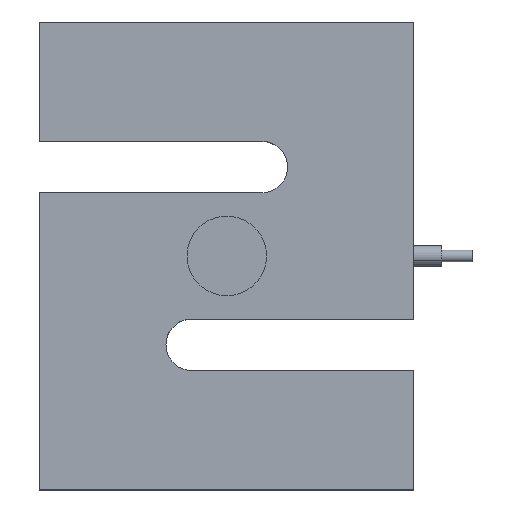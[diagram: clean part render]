
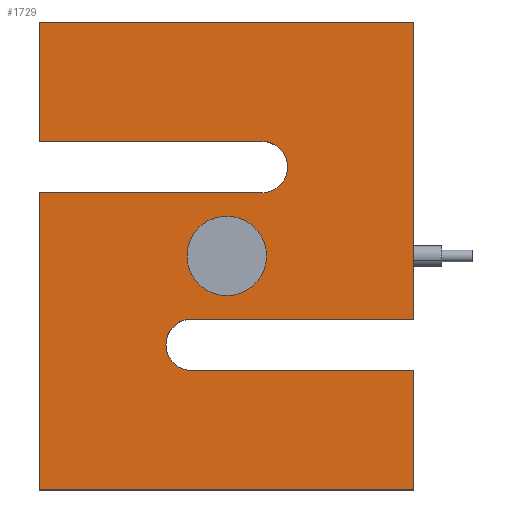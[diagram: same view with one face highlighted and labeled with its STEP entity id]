
A CAD part, top view. The second image highlights one B-rep face of the part: STEP entity #1729.
In plain terms, the highlighted planar face has unit normal (0, 0, 1).
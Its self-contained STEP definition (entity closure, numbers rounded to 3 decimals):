
#12 = DIRECTION ( 'NONE',  ( 0., 1., 0. ) ) ;
#14 = CARTESIAN_POINT ( 'NONE',  ( 121.131, 19.637, 116.765 ) ) ;
#15 = LINE ( 'NONE', #14, #910 ) ;
#18 = DIRECTION ( 'NONE',  ( -1., 0., 0. ) ) ;
#20 = DIRECTION ( 'NONE',  ( 0., 0., -1. ) ) ;
#21 = CARTESIAN_POINT ( 'NONE',  ( 26.131, 8.637, 116.765 ) ) ;
#33 = DIRECTION ( 'NONE',  ( -1., 0., 0. ) ) ;
#34 = CARTESIAN_POINT ( 'NONE',  ( 121.131, -2.363, 116.765 ) ) ;
#35 = LINE ( 'NONE', #34, #916 ) ;
#49 = DIRECTION ( 'NONE',  ( 0., 1., 0. ) ) ;
#53 = CARTESIAN_POINT ( 'NONE',  ( 121.131, -53.363, 116.765 ) ) ;
#63 = LINE ( 'NONE', #53, #924 ) ;
#83 = ORIENTED_EDGE ( 'NONE', *, *, #1813, .T. ) ;
#84 = ORIENTED_EDGE ( 'NONE', *, *, #1817, .T. ) ;
#85 = ORIENTED_EDGE ( 'NONE', *, *, #1800, .T. ) ;
#99 = ORIENTED_EDGE ( 'NONE', *, *, #1801, .T. ) ;
#100 = ORIENTED_EDGE ( 'NONE', *, *, #1785, .T. ) ;
#101 = ORIENTED_EDGE ( 'NONE', *, *, #1793, .T. ) ;
#114 = ORIENTED_EDGE ( 'NONE', *, *, #1791, .T. ) ;
#115 = ORIENTED_EDGE ( 'NONE', *, *, #648, .T. ) ;
#116 = ORIENTED_EDGE ( 'NONE', *, *, #652, .T. ) ;
#128 = ORIENTED_EDGE ( 'NONE', *, *, #654, .T. ) ;
#129 = ORIENTED_EDGE ( 'NONE', *, *, #1804, .T. ) ;
#130 = ORIENTED_EDGE ( 'NONE', *, *, #665, .T. ) ;
#150 = EDGE_LOOP ( 'NONE', ( #257, #256 ) ) ;
#152 = ORIENTED_EDGE ( 'NONE', *, *, #656, .T. ) ;
#160 = EDGE_LOOP ( 'NONE', ( #83, #84, #85, #99, #100, #101, #114, #115, #116, #128, #129, #130, #152 ) ) ;
#256 = ORIENTED_EDGE ( 'NONE', *, *, #1811, .T. ) ;
#257 = ORIENTED_EDGE ( 'NONE', *, *, #659, .T. ) ;
#455 = CARTESIAN_POINT ( 'NONE',  ( 56.131, 73.637, 116.765 ) ) ;
#462 = LINE ( 'NONE', #455, #1507 ) ;
#466 = DIRECTION ( 'NONE',  ( -1., 0., 0. ) ) ;
#467 = LINE ( 'NONE', #482, #1470 ) ;
#479 = CARTESIAN_POINT ( 'NONE',  ( -38.869, 73.637, 116.765 ) ) ;
#482 = CARTESIAN_POINT ( 'NONE',  ( -38.869, -53.363, 116.765 ) ) ;
#483 = DIRECTION ( 'NONE',  ( 1., 0., 0. ) ) ;
#486 = LINE ( 'NONE', #479, #1468 ) ;
#490 = DIRECTION ( 'NONE',  ( 0., -1., 0. ) ) ;
#509 = LINE ( 'NONE', #510, #1421 ) ;
#510 = CARTESIAN_POINT ( 'NONE',  ( -38.869, 95.637, 116.765 ) ) ;
#511 = DIRECTION ( 'NONE',  ( 1., 0., 0. ) ) ;
#514 = CARTESIAN_POINT ( 'NONE',  ( 56.131, 84.637, 116.765 ) ) ;
#515 = DIRECTION ( 'NONE',  ( 0., 0., -1. ) ) ;
#516 = DIRECTION ( 'NONE',  ( -1., 0., 0. ) ) ;
#521 = CARTESIAN_POINT ( 'NONE',  ( 26.131, 8.637, 116.765 ) ) ;
#522 = DIRECTION ( 'NONE',  ( 0., 0., -1. ) ) ;
#523 = DIRECTION ( 'NONE',  ( -1., 0., 0. ) ) ;
#543 = LINE ( 'NONE', #549, #1466 ) ;
#544 = CARTESIAN_POINT ( 'NONE',  ( 41.131, 46.637, 116.765 ) ) ;
#545 = DIRECTION ( 'NONE',  ( 0., 0., -1. ) ) ;
#546 = DIRECTION ( 'NONE',  ( -1., 0., 0. ) ) ;
#549 = CARTESIAN_POINT ( 'NONE',  ( 121.131, 146.637, 116.765 ) ) ;
#550 = DIRECTION ( 'NONE',  ( -1., 0., 0. ) ) ;
#558 = LINE ( 'NONE', #559, #1467 ) ;
#559 = CARTESIAN_POINT ( 'NONE',  ( -38.869, 146.637, 116.765 ) ) ;
#560 = DIRECTION ( 'NONE',  ( 0., -1., 0. ) ) ;
#648 = EDGE_CURVE ( 'NONE', #1365, #1378, #63, .T. ) ;
#652 = EDGE_CURVE ( 'NONE', #1378, #1374, #35, .T. ) ;
#654 = EDGE_CURVE ( 'NONE', #1374, #1357, #917, .T. ) ;
#656 = EDGE_CURVE ( 'NONE', #1344, #1372, #15, .T. ) ;
#659 = EDGE_CURVE ( 'NONE', #1335, #1381, #908, .T. ) ;
#665 = EDGE_CURVE ( 'NONE', #1343, #1344, #823, .T. ) ;
#690 = DIRECTION ( 'NONE',  ( 0., 0., -1. ) ) ;
#693 = DIRECTION ( 'NONE',  ( -1., 0., 0. ) ) ;
#699 = CARTESIAN_POINT ( 'NONE',  ( 41.131, 46.637, 116.765 ) ) ;
#707 = CARTESIAN_POINT ( 'NONE',  ( -38.869, 146.637, 116.765 ) ) ;
#713 = CARTESIAN_POINT ( 'NONE',  ( 58.131, 46.637, 116.765 ) ) ;
#716 = CARTESIAN_POINT ( 'NONE',  ( 121.131, -2.363, 116.765 ) ) ;
#719 = CARTESIAN_POINT ( 'NONE',  ( 56.131, 73.637, 116.765 ) ) ;
#720 = CARTESIAN_POINT ( 'NONE',  ( 26.131, -2.363, 116.765 ) ) ;
#722 = CARTESIAN_POINT ( 'NONE',  ( 121.131, 146.637, 116.765 ) ) ;
#729 = CARTESIAN_POINT ( 'NONE',  ( 121.131, -53.363, 116.765 ) ) ;
#732 = CARTESIAN_POINT ( 'NONE',  ( 56.131, 95.637, 116.765 ) ) ;
#734 = CARTESIAN_POINT ( 'NONE',  ( -38.869, -53.363, 116.765 ) ) ;
#737 = CARTESIAN_POINT ( 'NONE',  ( 15.131, 8.637, 116.765 ) ) ;
#738 = CARTESIAN_POINT ( 'NONE',  ( -38.869, 73.637, 116.765 ) ) ;
#739 = CARTESIAN_POINT ( 'NONE',  ( -38.869, 95.637, 116.765 ) ) ;
#750 = CARTESIAN_POINT ( 'NONE',  ( 121.131, 19.637, 116.765 ) ) ;
#751 = CARTESIAN_POINT ( 'NONE',  ( 26.131, 19.637, 116.765 ) ) ;
#759 = CARTESIAN_POINT ( 'NONE',  ( 24.131, 46.637, 116.765 ) ) ;
#813 = DIRECTION ( 'NONE',  ( 1., 0., 0. ) ) ;
#814 = CARTESIAN_POINT ( 'NONE',  ( 26.131, 19.637, 116.765 ) ) ;
#823 = LINE ( 'NONE', #814, #901 ) ;
#901 = VECTOR ( 'NONE', #813, 1000. ) ;
#904 = AXIS2_PLACEMENT_3D ( 'NONE', #699, #690, #693 ) ;
#908 = CIRCLE ( 'NONE', #904, 17. ) ;
#910 = VECTOR ( 'NONE', #12, 1000. ) ;
#911 = AXIS2_PLACEMENT_3D ( 'NONE', #21, #20, #18 ) ;
#916 = VECTOR ( 'NONE', #33, 1000. ) ;
#917 = CIRCLE ( 'NONE', #911, 11. ) ;
#924 = VECTOR ( 'NONE', #49, 1000. ) ;
#962 = DIRECTION ( 'NONE',  ( -1., 0., 0. ) ) ;
#963 = DIRECTION ( 'NONE',  ( 0., 0., -1. ) ) ;
#964 = CARTESIAN_POINT ( 'NONE',  ( 56.131, 84.637, 116.765 ) ) ;
#977 = FACE_BOUND ( 'NONE', #150, .T. ) ;
#983 = PLANE ( 'NONE',  #1250 ) ;
#995 = FACE_OUTER_BOUND ( 'NONE', #160, .T. ) ;
#1250 = AXIS2_PLACEMENT_3D ( 'NONE', #964, #963, #962 ) ;
#1335 = VERTEX_POINT ( 'NONE', #759 ) ;
#1343 = VERTEX_POINT ( 'NONE', #751 ) ;
#1344 = VERTEX_POINT ( 'NONE', #750 ) ;
#1355 = VERTEX_POINT ( 'NONE', #739 ) ;
#1356 = VERTEX_POINT ( 'NONE', #738 ) ;
#1357 = VERTEX_POINT ( 'NONE', #737 ) ;
#1360 = VERTEX_POINT ( 'NONE', #734 ) ;
#1362 = VERTEX_POINT ( 'NONE', #732 ) ;
#1365 = VERTEX_POINT ( 'NONE', #729 ) ;
#1372 = VERTEX_POINT ( 'NONE', #722 ) ;
#1374 = VERTEX_POINT ( 'NONE', #720 ) ;
#1375 = VERTEX_POINT ( 'NONE', #719 ) ;
#1378 = VERTEX_POINT ( 'NONE', #716 ) ;
#1381 = VERTEX_POINT ( 'NONE', #713 ) ;
#1417 = VERTEX_POINT ( 'NONE', #707 ) ;
#1421 = VECTOR ( 'NONE', #511, 1000. ) ;
#1424 = CIRCLE ( 'NONE', #1438, 11. ) ;
#1426 = AXIS2_PLACEMENT_3D ( 'NONE', #514, #515, #516 ) ;
#1438 = AXIS2_PLACEMENT_3D ( 'NONE', #521, #522, #523 ) ;
#1465 = CIRCLE ( 'NONE', #1508, 17. ) ;
#1466 = VECTOR ( 'NONE', #550, 1000. ) ;
#1467 = VECTOR ( 'NONE', #560, 1000. ) ;
#1468 = VECTOR ( 'NONE', #490, 1000. ) ;
#1470 = VECTOR ( 'NONE', #483, 1000. ) ;
#1477 = CIRCLE ( 'NONE', #1426, 11. ) ;
#1507 = VECTOR ( 'NONE', #466, 1000. ) ;
#1508 = AXIS2_PLACEMENT_3D ( 'NONE', #544, #545, #546 ) ;
#1729 = ADVANCED_FACE ( 'NONE', ( #977, #995 ), #983, .F. ) ;
#1785 = EDGE_CURVE ( 'NONE', #1375, #1356, #462, .T. ) ;
#1791 = EDGE_CURVE ( 'NONE', #1360, #1365, #467, .T. ) ;
#1793 = EDGE_CURVE ( 'NONE', #1356, #1360, #486, .T. ) ;
#1800 = EDGE_CURVE ( 'NONE', #1355, #1362, #509, .T. ) ;
#1801 = EDGE_CURVE ( 'NONE', #1362, #1375, #1477, .T. ) ;
#1804 = EDGE_CURVE ( 'NONE', #1357, #1343, #1424, .T. ) ;
#1811 = EDGE_CURVE ( 'NONE', #1381, #1335, #1465, .T. ) ;
#1813 = EDGE_CURVE ( 'NONE', #1372, #1417, #543, .T. ) ;
#1817 = EDGE_CURVE ( 'NONE', #1417, #1355, #558, .T. ) ;
